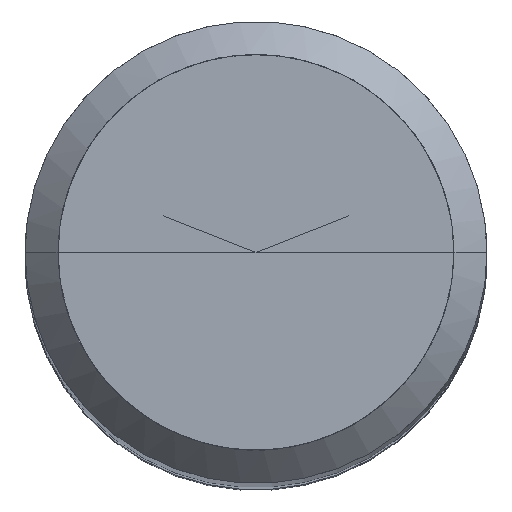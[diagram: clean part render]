
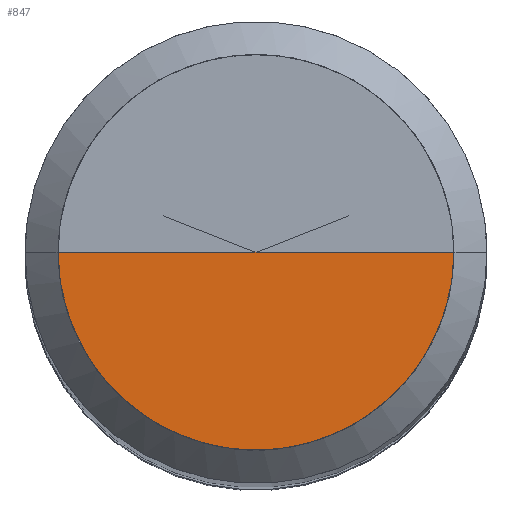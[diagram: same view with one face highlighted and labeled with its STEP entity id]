
A CAD part, top view. The second image highlights one B-rep face of the part: STEP entity #847.
In plain terms, the highlighted free-form (B-spline) face has degree [1, 2] with [2, 5] control points.
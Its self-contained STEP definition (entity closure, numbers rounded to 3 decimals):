
#490=CARTESIAN_POINT('',(6.0,0.0,71.202));
#494=CARTESIAN_POINT('',(-6.0,0.0,71.202));
#495=CARTESIAN_POINT('',(0.0,0.0,71.202));
#508=CARTESIAN_POINT('',(-6.0,-6.0,71.202));
#509=CARTESIAN_POINT('',(0.0,-6.0,71.202));
#510=CARTESIAN_POINT('',(6.0,-6.0,71.202));
#832=(
BOUNDED_SURFACE()
B_SPLINE_SURFACE(1,2,(
(#494,#508,#509,#510,#490),
(#495,#495,#495,#495,#495)
), .UNSPECIFIED.,.F.,.F.,.F.)
B_SPLINE_SURFACE_WITH_KNOTS((2,2),(3,2,3),(
0.0,1.0),(
0.0,0.5,1.0), .UNSPECIFIED.)
GEOMETRIC_REPRESENTATION_ITEM()
RATIONAL_B_SPLINE_SURFACE(((1.0,0.707,1.0,0.707,1.0),
(1.0,0.707,1.0,0.707,1.0)
))
REPRESENTATION_ITEM('')
SURFACE()
);
#833=(
BOUNDED_CURVE()
B_SPLINE_CURVE(2,(#490,#510,#509,#508,#494),.UNSPECIFIED.,.F.,.F.)
B_SPLINE_CURVE_WITH_KNOTS((3,2,3),
(0.0,0.5,1.0),.UNSPECIFIED.)
CURVE()
GEOMETRIC_REPRESENTATION_ITEM()
RATIONAL_B_SPLINE_CURVE((1.0,0.707,1.0,0.707,1.0))
REPRESENTATION_ITEM('')
);
#834=(
BOUNDED_CURVE()
B_SPLINE_CURVE(1,(#494,#495),.UNSPECIFIED.,.F.,.F.)
B_SPLINE_CURVE_WITH_KNOTS((2,2),
(0.0,1.0),.UNSPECIFIED.)
CURVE()
GEOMETRIC_REPRESENTATION_ITEM()
RATIONAL_B_SPLINE_CURVE((1.0,1.0))
REPRESENTATION_ITEM('')
);
#835=(
BOUNDED_CURVE()
B_SPLINE_CURVE(1,(#495,#490),.UNSPECIFIED.,.F.,.F.)
B_SPLINE_CURVE_WITH_KNOTS((2,2),
(0.0,1.0),.UNSPECIFIED.)
CURVE()
GEOMETRIC_REPRESENTATION_ITEM()
RATIONAL_B_SPLINE_CURVE((1.0,1.0))
REPRESENTATION_ITEM('')
);
#836=VERTEX_POINT('',#490);
#837=VERTEX_POINT('',#494);
#838=VERTEX_POINT('',#495);
#839=EDGE_CURVE('',#836,#837,#833,.T.);
#840=EDGE_CURVE('',#837,#838,#834,.T.);
#841=EDGE_CURVE('',#838,#836,#835,.T.);
#842=ORIENTED_EDGE('',*,*,#839,.T.);
#843=ORIENTED_EDGE('',*,*,#840,.T.);
#844=ORIENTED_EDGE('',*,*,#841,.T.);
#845=EDGE_LOOP('',(#842,#843,#844));
#846=FACE_OUTER_BOUND('',#845,.T.);
#847=ADVANCED_FACE('',(#846),#832,.T.);
